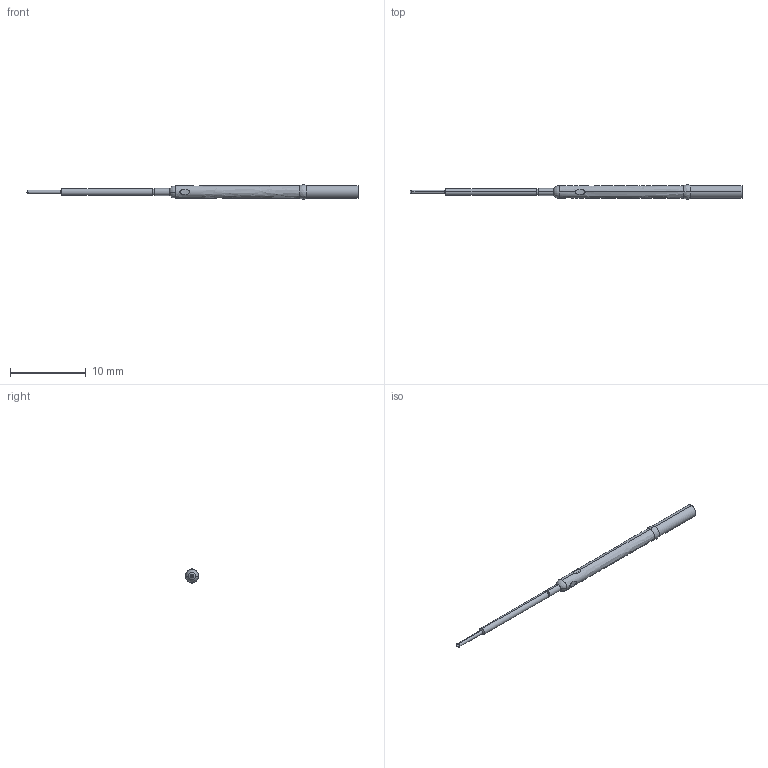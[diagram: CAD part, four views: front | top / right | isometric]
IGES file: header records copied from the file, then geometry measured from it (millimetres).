
Start section: SolidWorks IGES file using analytic representation for surfaces
Global section: file name: Z:\probe solid model mockups\Solidworks models\DER-100\DER-100J.IGS; native system: SolidWorks 2006 by SolidWorks Corporation; preprocessor: SolidWorks 2006 by SolidWorks Corporation; author: tsakatani; date: 071218.090345; units: inch
Bounding box: 43.79 x 1.86 x 1.88 mm (x, y, z)
Surface area: 291.6 mm2 (no closed solid volume)
Topology: 0 solids, 0 shells, 38 faces, 385 edges, 380 vertices
Faces by surface type: revolution 31, bspline 7
